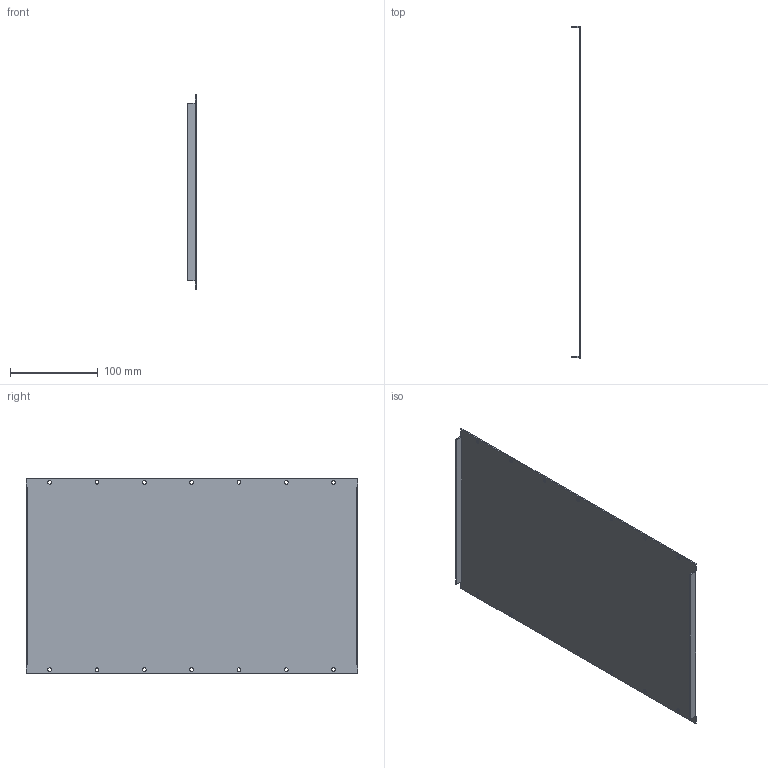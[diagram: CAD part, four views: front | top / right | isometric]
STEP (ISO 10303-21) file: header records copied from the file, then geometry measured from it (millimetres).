
FILE_DESCRIPTION(('CATIA V5 STEP Exchange'),'2;1');
FILE_NAME('C:\Users\Mike\Desktop\blank panels\7MU BLANK PANEL.stp','2018-03-03T21:32:52+00:00',('none'),('none'),'CATIA Version 5 Release 20 GA (IN-10)','CATIA V5 STEP AP214','none');
FILE_SCHEMA(('AUTOMOTIVE_DESIGN { 1 0 10303 214 1 1 1 1 }'));
Length unit declared in the file: millimetre
Products named in the file (1): 7MU BLANK PANEL
Bounding box: 10.16 x 377.82 x 222.25 mm (x, y, z)
Volume: 137180 mm3; surface area: 176450.4 mm2
Topology: 1 solids, 1 shells, 54 faces, 156 edges, 104 vertices
Faces by surface type: cylinder 30, plane 20, torus 4
Entity records: 1896 total; most frequent: CARTESIAN_POINT 513, ORIENTED_EDGE 312, DIRECTION 200, EDGE_CURVE 156, VERTEX_POINT 104, VECTOR 84, LINE 84, EDGE_LOOP 82
